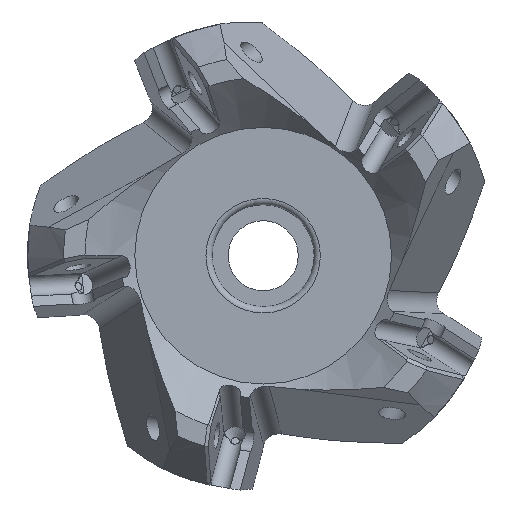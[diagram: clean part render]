
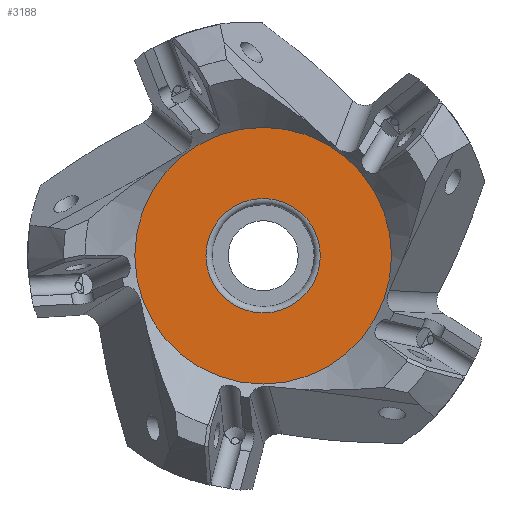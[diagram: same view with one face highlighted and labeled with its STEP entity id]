
A CAD part, front view. The second image highlights one B-rep face of the part: STEP entity #3188.
In plain terms, the highlighted planar face has unit normal (0, -1, 0).
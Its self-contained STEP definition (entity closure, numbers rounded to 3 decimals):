
#74=FACE_BOUND('',#882,.T.);
#466=PLANE('',#3511);
#706=FACE_OUTER_BOUND('',#881,.T.);
#881=EDGE_LOOP('',(#2978,#2979));
#882=EDGE_LOOP('',(#2980,#2981));
#935=CIRCLE('',#3326,20.532);
#936=CIRCLE('',#3327,20.532);
#989=CIRCLE('',#3512,9.15);
#990=CIRCLE('',#3513,9.15);
#1360=VERTEX_POINT('',#5601);
#1361=VERTEX_POINT('',#5603);
#1489=VERTEX_POINT('',#7086);
#1490=VERTEX_POINT('',#7087);
#1747=EDGE_CURVE('',#1361,#1360,#935,.T.);
#1748=EDGE_CURVE('',#1360,#1361,#936,.T.);
#1991=EDGE_CURVE('',#1489,#1490,#989,.T.);
#1992=EDGE_CURVE('',#1490,#1489,#990,.T.);
#2978=ORIENTED_EDGE('',*,*,#1747,.T.);
#2979=ORIENTED_EDGE('',*,*,#1748,.T.);
#2980=ORIENTED_EDGE('',*,*,#1991,.F.);
#2981=ORIENTED_EDGE('',*,*,#1992,.F.);
#3188=ADVANCED_FACE('',(#706,#74),#466,.T.);
#3326=AXIS2_PLACEMENT_3D('',#5604,#3808,#3809);
#3327=AXIS2_PLACEMENT_3D('',#5605,#3810,#3811);
#3511=AXIS2_PLACEMENT_3D('',#7085,#4249,#4250);
#3512=AXIS2_PLACEMENT_3D('',#7088,#4251,#4252);
#3513=AXIS2_PLACEMENT_3D('',#7089,#4253,#4254);
#3808=DIRECTION('center_axis',(0.,-1.,0.));
#3809=DIRECTION('ref_axis',(1.,0.,0.));
#3810=DIRECTION('center_axis',(0.,-1.,0.));
#3811=DIRECTION('ref_axis',(1.,0.,0.));
#4249=DIRECTION('center_axis',(0.,-1.,0.));
#4250=DIRECTION('ref_axis',(0.,0.,-1.));
#4251=DIRECTION('center_axis',(0.,-1.,0.));
#4252=DIRECTION('ref_axis',(1.,0.,0.));
#4253=DIRECTION('center_axis',(0.,-1.,0.));
#4254=DIRECTION('ref_axis',(1.,0.,0.));
#5601=CARTESIAN_POINT('',(-20.532,8.4,0.));
#5603=CARTESIAN_POINT('',(20.532,8.4,0.));
#5604=CARTESIAN_POINT('Origin',(0.,8.4,0.));
#5605=CARTESIAN_POINT('Origin',(0.,8.4,0.));
#7085=CARTESIAN_POINT('Origin',(9.15,8.4,0.));
#7086=CARTESIAN_POINT('',(9.15,8.4,0.));
#7087=CARTESIAN_POINT('',(0.,8.4,9.15));
#7088=CARTESIAN_POINT('Origin',(0.,8.4,0.));
#7089=CARTESIAN_POINT('Origin',(0.,8.4,0.));
